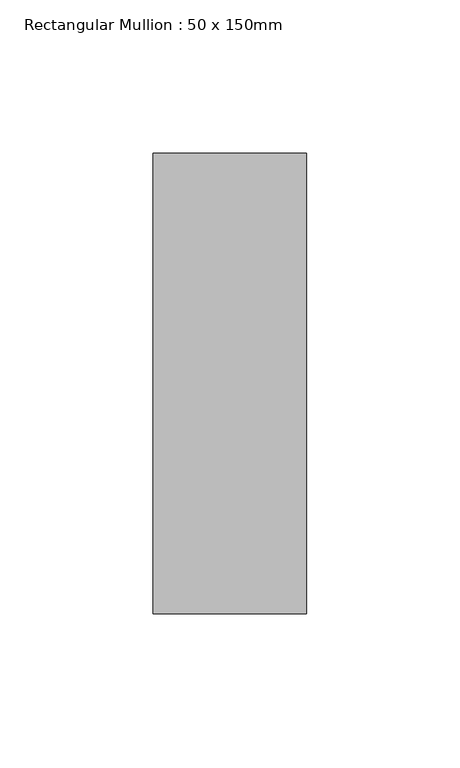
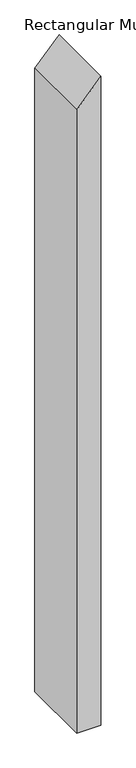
"""IFC4 building model written with IfcOpenShell, lengths in millimetres: member geometry, Rectangular Mullion : 50 x 150mm."""

import ifcopenshell
import ifcopenshell.guid

model = None  # the IFC model being written
_history = None  # IfcOwnerHistory: only IFC2X3 demands one
_inside = {}  # id of a spatial element -> (the spatial element, [elements in it])
_under = {}  # id of a project, library or spatial element -> (it, [spatial elements below it])
_declared = {}  # id of a project -> (the project, [libraries it declares])
_typed = {}  # id of a type object -> (the type object, [elements of that type])
_made_of = {}  # id of a material, layer set ... -> (it, [elements and type objects made of it])


def new_model(schema):
    """Start an empty IFC model of exactly this schema.

    Asked for "IFC4X3", IfcOpenShell would pick the latest addendum, in which some entities
    have other attributes; the version numbers below select the first issue.
    IFC2X3 requires an IfcOwnerHistory on every rooted entity: one is made here for all.
    """
    global model, _history
    if schema == "IFC4X3":
        model = ifcopenshell.file(schema_version=(4, 3, 0, 0))
    else:
        model = ifcopenshell.file(schema=schema)
    _inside.clear()
    _under.clear()
    _declared.clear()
    _typed.clear()
    _made_of.clear()
    _history = None
    if model.schema == "IFC2X3":
        org = make("IfcOrganization", Name="unknown")
        user = make(
            "IfcPersonAndOrganization",
            ThePerson=make("IfcPerson", FamilyName="unknown"),
            TheOrganization=org,
        )
        app = make(
            "IfcApplication",
            ApplicationDeveloper=org,
            Version="unknown",
            ApplicationFullName="unknown",
            ApplicationIdentifier="unknown",
        )
        _history = make(
            "IfcOwnerHistory",
            OwningUser=user,
            OwningApplication=app,
            ChangeAction="ADDED",
            CreationDate=0,
        )
    return model


def make(cls, **values):
    """One entity of the class cls with the attributes given. An attribute that is None is left unset."""
    return model.create_entity(
        cls, **{name: value for name, value in values.items() if value is not None}
    )


def rooted(cls, **values):
    """An entity with a GlobalId (a new one), such as an element, a storey or a relation."""
    return make(cls, GlobalId=ifcopenshell.guid.new(), OwnerHistory=_history, **values)


def si_unit(unit_type, name, prefix=None):
    """IfcSIUnit, for example si_unit("LENGTHUNIT", "METRE", prefix="MILLI")."""
    return make("IfcSIUnit", UnitType=unit_type, Prefix=prefix, Name=name)


def assignment(units):
    """IfcUnitAssignment: the units of a project."""
    return None if units is None else make("IfcUnitAssignment", Units=units)


def point(xyz):
    """IfcCartesianPoint."""
    return None if xyz is None else make("IfcCartesianPoint", Coordinates=xyz)


def direction(xyz):
    """IfcDirection."""
    return None if xyz is None else make("IfcDirection", DirectionRatios=xyz)


def frame(location, z_axis=None, x_axis=None):
    """IfcAxis2Placement3D, a coordinate frame: its origin and axes. An axis left out is left unset."""
    return make(
        "IfcAxis2Placement3D",
        Location=point(location),
        Axis=direction(z_axis),
        RefDirection=direction(x_axis),
    )


def origin():
    """The frame at (0, 0, 0) with its axes left unset."""
    return frame((0.0, 0.0, 0.0))


def place(relative_to, where):
    """IfcLocalPlacement: puts the frame where relative to a parent placement (None: the world)."""
    return make(
        "IfcLocalPlacement", PlacementRelTo=relative_to, RelativePlacement=where
    )


def context(
    kind, dimensions, precision=None, world=None, true_north=None, identifier=None
):
    """IfcGeometricRepresentationContext, for example the 3D "Model" context."""
    return make(
        "IfcGeometricRepresentationContext",
        ContextIdentifier=identifier,
        ContextType=kind,
        CoordinateSpaceDimension=dimensions,
        Precision=precision,
        WorldCoordinateSystem=world,
        TrueNorth=true_north,
    )


def project(units=None, contexts=None):
    """IfcProject with its units and contexts."""
    return rooted(
        "IfcProject",
        Name="project",
        RepresentationContexts=contexts,
        UnitsInContext=assignment(units),
    )


def spatial(cls, under=None, at=None, **own):
    """A site, building, storey or space (cls), placed at a placement, below another one or the project."""
    s = rooted(cls, ObjectPlacement=at, **own)
    if under is not None:
        _under.setdefault(under.id(), (under, []))[1].append(s)
    return s


def polyline(points):
    """IfcPolyline through the points."""
    return make("IfcPolyline", Points=[point(p) for p in points])


def outline(outer, holes=None, kind="AREA"):
    """IfcArbitraryClosedProfileDef: a profile drawn as a closed curve; with holes, ...WithVoids."""
    if holes is None:
        return make("IfcArbitraryClosedProfileDef", ProfileType=kind, OuterCurve=outer)
    return make(
        "IfcArbitraryProfileDefWithVoids",
        ProfileType=kind,
        OuterCurve=outer,
        InnerCurves=holes,
    )


def extrude(swept, where, along, depth):
    """IfcExtrudedAreaSolid: the profile swept, set in the frame where, extruded along a direction by depth."""
    return make(
        "IfcExtrudedAreaSolid",
        SweptArea=swept,
        Position=where,
        ExtrudedDirection=direction(along),
        Depth=depth,
    )


def shape(context_of_items, identifier, shape_type, items):
    """IfcShapeRepresentation: the items that make up one representation, for example the "Body"."""
    return make(
        "IfcShapeRepresentation",
        ContextOfItems=context_of_items,
        RepresentationIdentifier=identifier,
        RepresentationType=shape_type,
        Items=items,
    )


def source(mapping_origin, context_of_items, identifier, shape_type, items):
    """IfcRepresentationMap: a shape defined once, which mapped items show again and again."""
    return make(
        "IfcRepresentationMap",
        MappingOrigin=mapping_origin,
        MappedRepresentation=shape(context_of_items, identifier, shape_type, items),
    )


def transform(
    local_origin,
    x_axis=None,
    y_axis=None,
    z_axis=None,
    scale=None,
    scale2=None,
    scale3=None,
    uniform=True,
):
    """IfcCartesianTransformationOperator3D, or its non-uniform kind. x_axis, y_axis, z_axis: its Axis1, 2, 3."""
    if uniform:
        return make(
            "IfcCartesianTransformationOperator3D",
            Axis1=direction(x_axis),
            Axis2=direction(y_axis),
            LocalOrigin=point(local_origin),
            Scale=scale,
            Axis3=direction(z_axis),
        )
    return make(
        "IfcCartesianTransformationOperator3DnonUniform",
        Axis1=direction(x_axis),
        Axis2=direction(y_axis),
        LocalOrigin=point(local_origin),
        Scale=scale,
        Axis3=direction(z_axis),
        Scale2=scale2,
        Scale3=scale3,
    )


def mapped(mapping_source, mapping_target):
    """IfcMappedItem: shows the shape of a source again, moved by a transform."""
    return make(
        "IfcMappedItem", MappingSource=mapping_source, MappingTarget=mapping_target
    )


def made_of(thing, what):
    """Note that an element or type object is made of a material, layer set ...; save() writes the relation."""
    if what is not None:
        _made_of.setdefault(what.id(), (what, []))[1].append(thing)
    return thing


def element(
    cls,
    number,
    at=None,
    inside=None,
    cuts=None,
    type_object=None,
    material=None,
    context=None,
    identifier="Body",
    shape_type=None,
    held_by="IfcProductDefinitionShape",
    body=None,
    shapes=None,
    **own,
):
    """One element of the class cls, such as IfcWall. Its Tag is "e" and its number.

    at: its placement. inside: the storey or other place that contains it. cuts: it is an
    opening in that element (IfcRelVoidsElement). A single representation is given by context,
    identifier, shape_type and body (its items); several are given by shapes. held_by: the class
    of the entity that holds the representations. save() writes the other relations.
    """
    e = rooted(cls, Tag="e%d" % number, ObjectPlacement=at, **own)
    if body is not None:
        shapes = [shape(context, identifier, shape_type, body)]
    if shapes is not None:
        e.Representation = make(held_by, Representations=shapes)
    if inside is not None:
        _inside.setdefault(inside.id(), (inside, []))[1].append(e)
    if cuts is not None:
        rooted(
            "IfcRelVoidsElement", RelatingBuildingElement=cuts, RelatedOpeningElement=e
        )
    if type_object is not None:
        _typed.setdefault(type_object.id(), (type_object, []))[1].append(e)
    return made_of(e, material)


def aggregate(whole, parts):
    """IfcRelAggregates: a whole, such as a stair, and the parts it consists of."""
    return rooted("IfcRelAggregates", RelatingObject=whole, RelatedObjects=parts)


def save(model, path):
    """Write the relations noted so far, then the file.

    IfcRelAggregates (storeys below a building ...), IfcRelContainedInSpatialStructure (elements
    in a storey), IfcRelDefinesByType, IfcRelAssociatesMaterial and IfcRelDeclares: one each for
    every whole, place, type object, material and project.
    """
    for whole, parts in _under.values():
        aggregate(whole, parts)
    for where, things in _inside.values():
        rooted(
            "IfcRelContainedInSpatialStructure",
            RelatedElements=things,
            RelatingStructure=where,
        )
    for kind, things in _typed.values():
        rooted("IfcRelDefinesByType", RelatedObjects=things, RelatingType=kind)
    for what, things in _made_of.values():
        rooted("IfcRelAssociatesMaterial", RelatedObjects=things, RelatingMaterial=what)
    for by, libraries in _declared.values():
        rooted("IfcRelDeclares", RelatingContext=by, RelatedDefinitions=libraries)
    model.write(path)


def rectangular_mullion_50_x_150mm_de32bae7(model_context):
    return source(origin(), model_context, "Body", "SweptSolid", [
        extrude(outline(polyline([(0.0, 0.0), (-56.0001068, -50.0), (-1423.065825, -50.0), (-1423.065825, 0.0), (0.0, 0.0)])), frame((0.0, -75.0, 0.0), z_axis=(0.0, 1.0, 0.0), x_axis=(0.0, 0.0, 1.0)), (0.0, 0.0, 1.0), 150.0),
    ])


if __name__ == "__main__":
    model = new_model("IFC4")
    model_context = context("Model", 3, world=origin())
    ifc_project = project(units=[si_unit("LENGTHUNIT", "METRE", prefix="MILLI")], contexts=[model_context])
    site = spatial("IfcSite", under=ifc_project)
    building = spatial("IfcBuilding", under=site)
    placement = place(None, origin())
    rectangular_mullion_50_x_150mm_shape = rectangular_mullion_50_x_150mm_de32bae7(model_context)
    element("IfcMember", 1, ObjectType="Rectangular Mullion : 50 x 150mm", at=placement, inside=building, context=model_context, shape_type="MappedRepresentation", body=[
        mapped(rectangular_mullion_50_x_150mm_shape, transform((0.0, 0.0, 0.0), x_axis=(1.0, 0.0, 0.0), y_axis=(0.0, 1.0, 0.0), z_axis=(0.0, 0.0, 1.0))),
    ])
    save(model, "model.ifc")
